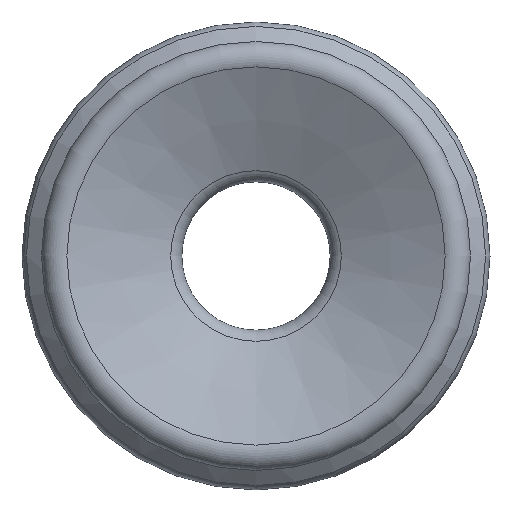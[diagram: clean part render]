
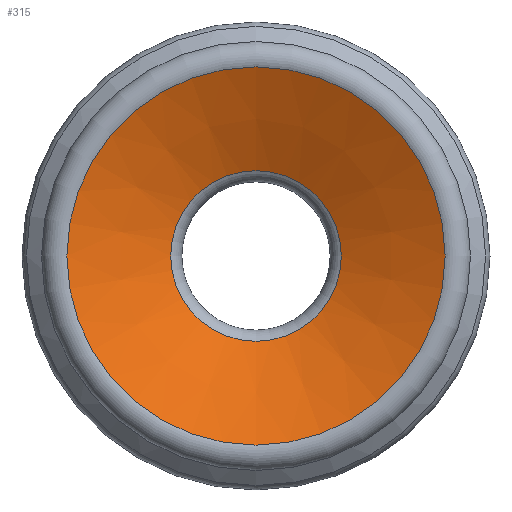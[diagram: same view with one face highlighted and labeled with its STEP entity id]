
A CAD part, front view. The second image highlights one B-rep face of the part: STEP entity #315.
In plain terms, the highlighted conical face has half-angle 64.667 degrees and reference radius 4.85 mm.
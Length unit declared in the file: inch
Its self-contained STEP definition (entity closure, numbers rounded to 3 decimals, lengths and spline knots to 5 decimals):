
#26 = DIRECTION ( 'NONE',  ( 0., 0., -1. ) ) ;
#48 = CIRCLE ( 'NONE', #227, 0.19093 ) ;
#58 = CARTESIAN_POINT ( 'NONE',  ( 0., 0.00173, 0. ) ) ;
#87 = FACE_BOUND ( 'NONE', #331, .T. ) ;
#99 = CIRCLE ( 'NONE', #137, 0.0861 ) ;
#102 = CARTESIAN_POINT ( 'NONE',  ( 0., 0.00173, 0. ) ) ;
#137 = AXIS2_PLACEMENT_3D ( 'NONE', #423, #253, #26 ) ;
#139 = VERTEX_POINT ( 'NONE', #328 ) ;
#142 = EDGE_LOOP ( 'NONE', ( #214 ) ) ;
#168 = CONICAL_SURFACE ( 'NONE', #271, 0.19093, 1.129 ) ;
#214 = ORIENTED_EDGE ( 'NONE', *, *, #381, .T. ) ;
#226 = DIRECTION ( 'NONE',  ( 0., 0., -1. ) ) ;
#227 = AXIS2_PLACEMENT_3D ( 'NONE', #102, #292, #293 ) ;
#233 = CARTESIAN_POINT ( 'NONE',  ( 0., 0.00173, -0.19093 ) ) ;
#249 = FACE_OUTER_BOUND ( 'NONE', #142, .T. ) ;
#253 = DIRECTION ( 'NONE',  ( 0., -1., 0. ) ) ;
#271 = AXIS2_PLACEMENT_3D ( 'NONE', #58, #323, #226 ) ;
#292 = DIRECTION ( 'NONE',  ( 0., -1., 0. ) ) ;
#293 = DIRECTION ( 'NONE',  ( 0., 0., -1. ) ) ;
#311 = EDGE_CURVE ( 'NONE', #139, #139, #99, .T. ) ;
#315 = ADVANCED_FACE ( 'NONE', ( #87, #249 ), #168, .F. ) ;
#323 = DIRECTION ( 'NONE',  ( 0., -1., 0. ) ) ;
#328 = CARTESIAN_POINT ( 'NONE',  ( 0., 0.05136, -0.0861 ) ) ;
#330 = ORIENTED_EDGE ( 'NONE', *, *, #311, .F. ) ;
#331 = EDGE_LOOP ( 'NONE', ( #330 ) ) ;
#381 = EDGE_CURVE ( 'NONE', #400, #400, #48, .T. ) ;
#400 = VERTEX_POINT ( 'NONE', #233 ) ;
#423 = CARTESIAN_POINT ( 'NONE',  ( 0., 0.05136, 0. ) ) ;
